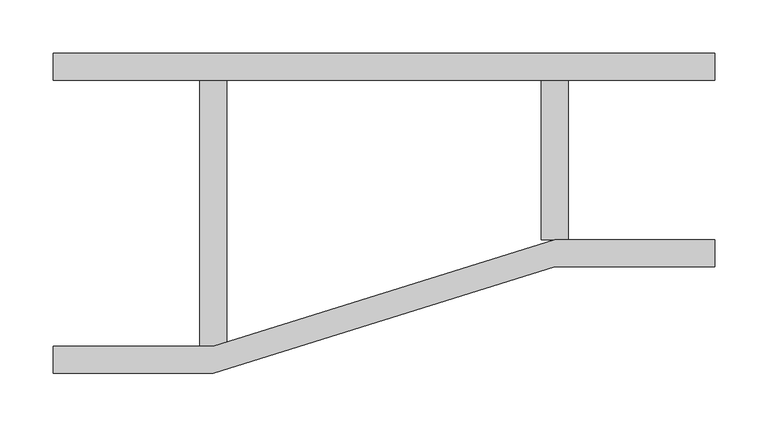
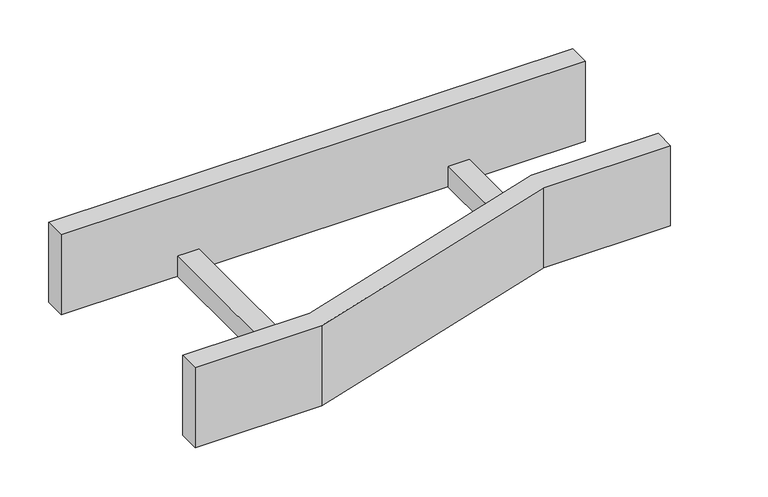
"""IFC4 building model written with IfcOpenShell, lengths in millimetres: cable carrier fitting geometry, BAKS_LDLS_RED_Straight reducer_RDS : R(S/L/P)DSC_H100."""

from ifc_helpers import new_model, si_unit, frame, origin, place, context, project, spatial, polyline, outline, extrude, source, transform, mapped, element, save


def cable_carrier_fitting_75b1d624(model_context):
    return source(origin(), model_context, "Body", "SweptSolid", [
        extrude(outline(polyline([(0.0, -150.0), (0.0, -124.6), (150.0, -124.6), (470.0, -24.6), (620.0, -24.6), (620.0, -50.0), (470.0, -50.0), (150.0, -150.0), (0.0, -150.0)])), frame((0.0, 0.0, -50.0), z_axis=(0.0, 0.0, 1.0), x_axis=(1.0, 0.0, 0.0)), (0.0, 0.0, 1.0), 100.0),
        extrude(outline(polyline([(0.0, 124.6), (0.0, 150.0), (620.0, 150.0), (620.0, 124.6), (0.0, 124.6)])), frame((0.0, 0.0, -50.0), z_axis=(0.0, 0.0, 1.0), x_axis=(1.0, 0.0, 0.0)), (0.0, 0.0, 1.0), 100.0),
        extrude(outline(polyline([(457.3, 124.6), (482.7, 124.6), (482.7, -24.6), (457.3, -24.6), (457.3, 124.6)])), frame((0.0, 0.0, -50.0), z_axis=(0.0, 0.0, 1.0), x_axis=(1.0, 0.0, 0.0)), (0.0, 0.0, 1.0), 25.4),
        extrude(outline(polyline([(137.3, 124.6), (162.7, 124.6), (162.7, -124.6), (137.3, -124.6), (137.3, 124.6)])), frame((0.0, 0.0, -50.0), z_axis=(0.0, 0.0, 1.0), x_axis=(1.0, 0.0, 0.0)), (0.0, 0.0, 1.0), 25.4),
    ])


if __name__ == "__main__":
    model = new_model("IFC4")
    model_context = context("Model", 3, world=origin())
    ifc_project = project(units=[si_unit("LENGTHUNIT", "METRE", prefix="MILLI")], contexts=[model_context])
    site = spatial("IfcSite", under=ifc_project)
    building = spatial("IfcBuilding", under=site)
    placement = place(None, origin())
    cable_carrier_fitting_shape = cable_carrier_fitting_75b1d624(model_context)
    element("IfcCableCarrierFitting", 1, ObjectType="BAKS_LDLS_RED_Straight reducer_RDS : R(S/L/P)DSC_H100", at=placement, inside=building, context=model_context, shape_type="MappedRepresentation", body=[
        mapped(cable_carrier_fitting_shape, transform((0.0, 0.0, 0.0), x_axis=(1.0, 0.0, 0.0), y_axis=(0.0, 1.0, 0.0), z_axis=(0.0, 0.0, 1.0))),
    ])
    save(model, "model.ifc")
